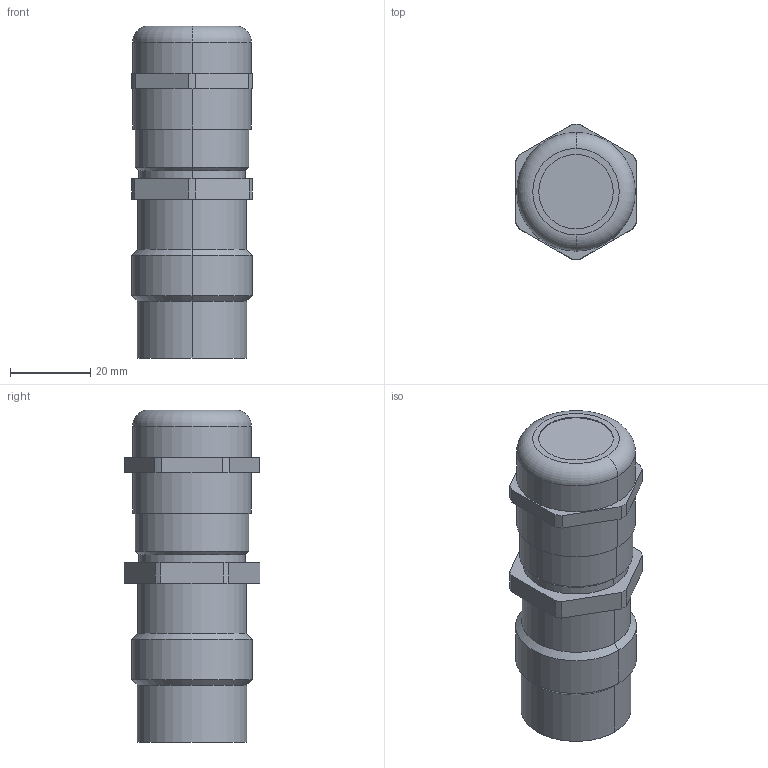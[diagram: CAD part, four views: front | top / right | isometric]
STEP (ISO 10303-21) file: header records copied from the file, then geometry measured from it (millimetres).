
FILE_DESCRIPTION((''),'2;1');
FILE_NAME('UTOS16JCSL-CATALOGUE','2010-12-13T',('Gsineau'),('SOURIAU'),'PRO/ENGINEER BY PARAMETRIC TECHNOLOGY CORPORATION, 2010140','PRO/ENGINEER BY PARAMETRIC TECHNOLOGY CORPORATION, 2010140','');
FILE_SCHEMA(('CONFIG_CONTROL_DESIGN'));
Length unit declared in the file: millimetre
Products named in the file (1): UTOS16JCSL-CATALOGUE
Bounding box: 30 x 33.75 x 82.5 mm (x, y, z)
Volume: 53155.9 mm3; surface area: 9423.4 mm2
Topology: 1 solids, 1 shells, 59 faces, 136 edges, 86 vertices
Faces by surface type: cylinder 28, plane 21, cone 8, torus 2
Entity records: 1720 total; most frequent: DIRECTION 318, CARTESIAN_POINT 281, ORIENTED_EDGE 272, EDGE_CURVE 136, AXIS2_PLACEMENT_3D 123, VERTEX_POINT 86, VECTOR 72, LINE 72
